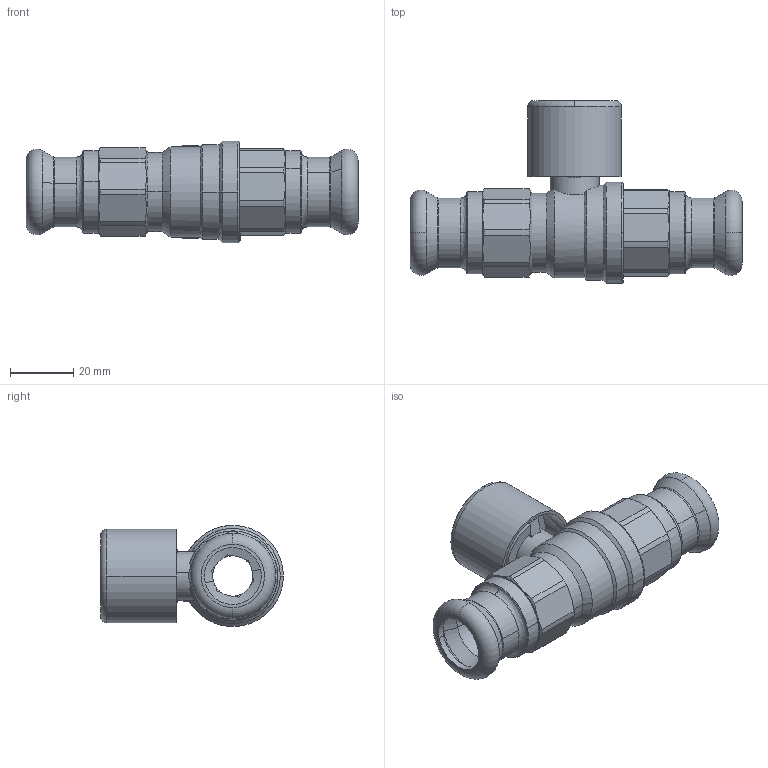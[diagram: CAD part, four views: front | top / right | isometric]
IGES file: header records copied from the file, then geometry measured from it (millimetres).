
Global section: file name: No Iges File Name specified; native system: AutoDesk Inventor R12.0; preprocessor: AutoDesk Inventor Iges Exporter R12.0; date: 20111207.103817; units: millimetre
Bounding box: 104.9 x 57.8 x 32 mm (x, y, z)
Volume: 45496.7 mm3; surface area: 27141.5 mm2
Topology: 1 solids, 1 shells, 397 faces, 1263 edges, 899 vertices
Faces by surface type: plane 146, cone 79, revolution 76, cylinder 58, bspline 22, torus 16
